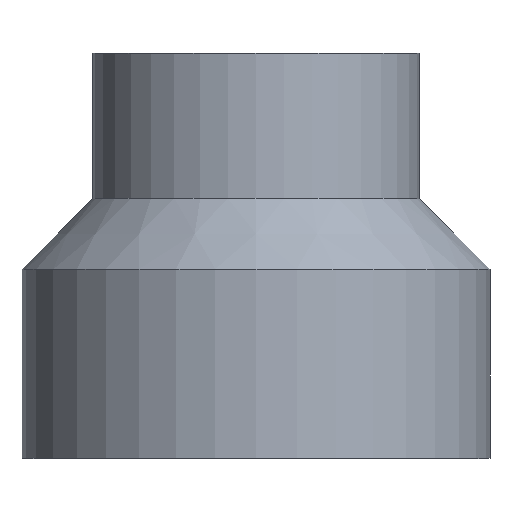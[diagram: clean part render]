
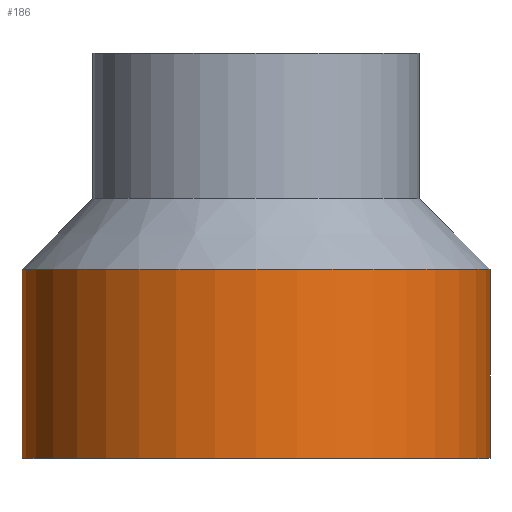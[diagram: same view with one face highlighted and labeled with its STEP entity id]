
A CAD part, top view. The second image highlights one B-rep face of the part: STEP entity #186.
In plain terms, the highlighted cylindrical face has radius 52 mm (diameter 104 mm), a full revolution.
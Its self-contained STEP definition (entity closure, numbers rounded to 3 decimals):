
#23=FACE_OUTER_BOUND('',#33,.T.);
#33=EDGE_LOOP('',(#127,#128,#129,#130,#131,#132));
#46=LINE('',#322,#53);
#53=VECTOR('',#254,52.);
#60=CIRCLE('',#217,52.);
#61=CIRCLE('',#218,52.);
#62=CIRCLE('',#219,52.);
#63=CIRCLE('',#220,52.);
#80=VERTEX_POINT('',#317);
#81=VERTEX_POINT('',#318);
#82=VERTEX_POINT('',#321);
#83=VERTEX_POINT('',#323);
#100=EDGE_CURVE('',#80,#81,#60,.T.);
#101=EDGE_CURVE('',#81,#80,#61,.T.);
#102=EDGE_CURVE('',#81,#82,#46,.T.);
#103=EDGE_CURVE('',#82,#83,#62,.T.);
#104=EDGE_CURVE('',#83,#82,#63,.T.);
#127=ORIENTED_EDGE('',*,*,#100,.F.);
#128=ORIENTED_EDGE('',*,*,#101,.F.);
#129=ORIENTED_EDGE('',*,*,#102,.T.);
#130=ORIENTED_EDGE('',*,*,#103,.T.);
#131=ORIENTED_EDGE('',*,*,#104,.T.);
#132=ORIENTED_EDGE('',*,*,#102,.F.);
#181=CYLINDRICAL_SURFACE('',#216,52.);
#186=ADVANCED_FACE('',(#23),#181,.T.);
#216=AXIS2_PLACEMENT_3D('',#316,#248,#249);
#217=AXIS2_PLACEMENT_3D('',#319,#250,#251);
#218=AXIS2_PLACEMENT_3D('',#320,#252,#253);
#219=AXIS2_PLACEMENT_3D('',#324,#255,#256);
#220=AXIS2_PLACEMENT_3D('',#325,#257,#258);
#248=DIRECTION('center_axis',(0.,1.,0.));
#249=DIRECTION('ref_axis',(-1.,0.,0.));
#250=DIRECTION('center_axis',(0.,1.,0.));
#251=DIRECTION('ref_axis',(-1.,0.,0.));
#252=DIRECTION('center_axis',(0.,1.,0.));
#253=DIRECTION('ref_axis',(-1.,0.,0.));
#254=DIRECTION('',(0.,-1.,0.));
#255=DIRECTION('center_axis',(0.,1.,0.));
#256=DIRECTION('ref_axis',(-1.,0.,0.));
#257=DIRECTION('center_axis',(0.,1.,0.));
#258=DIRECTION('ref_axis',(-1.,0.,0.));
#316=CARTESIAN_POINT('Origin',(0.,21.,0.));
#317=CARTESIAN_POINT('',(-52.,42.,0.));
#318=CARTESIAN_POINT('',(52.,42.,0.));
#319=CARTESIAN_POINT('Origin',(0.,42.,0.));
#320=CARTESIAN_POINT('Origin',(0.,42.,0.));
#321=CARTESIAN_POINT('',(52.,0.,0.));
#322=CARTESIAN_POINT('',(52.,21.,0.));
#323=CARTESIAN_POINT('',(-52.,0.,0.));
#324=CARTESIAN_POINT('Origin',(0.,0.,0.));
#325=CARTESIAN_POINT('Origin',(0.,0.,0.));
